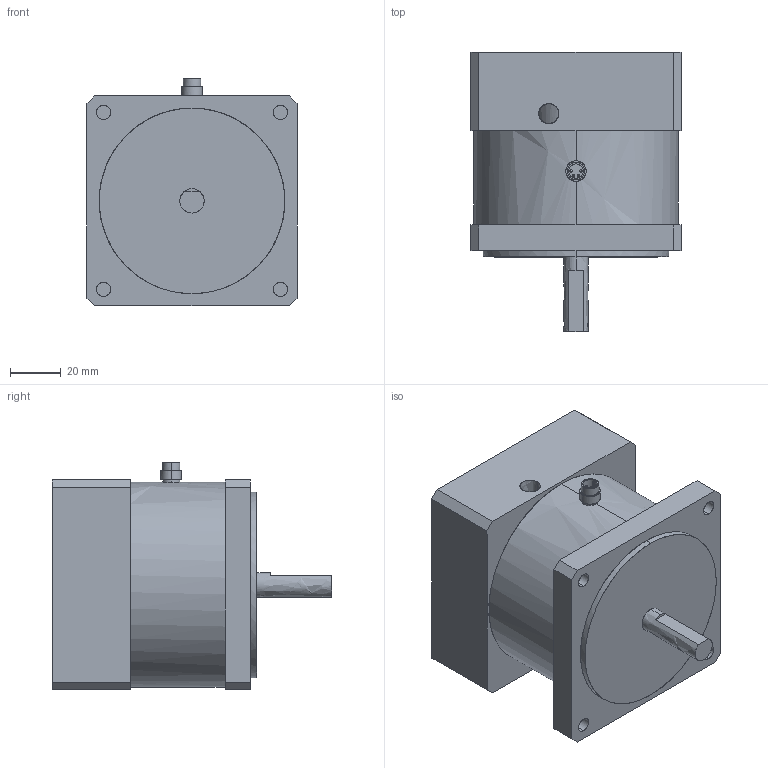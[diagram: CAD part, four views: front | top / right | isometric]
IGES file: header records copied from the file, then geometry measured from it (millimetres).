
Start section: Comment
Global section: file name: MAB34x-92.igs; native system:  By UGS Corp.; preprocessor: XPlus GENERIC/IGES 3.0; author: Author; organization: Title; date: 20140303.132507; units: millimetre
Bounding box: 82.6 x 110 x 89.6 mm (x, y, z)
Surface area: 49494.1 mm2 (no closed solid volume)
Topology: 0 solids, 0 shells, 122 faces, 590 edges, 574 vertices
Faces by surface type: bspline 122
